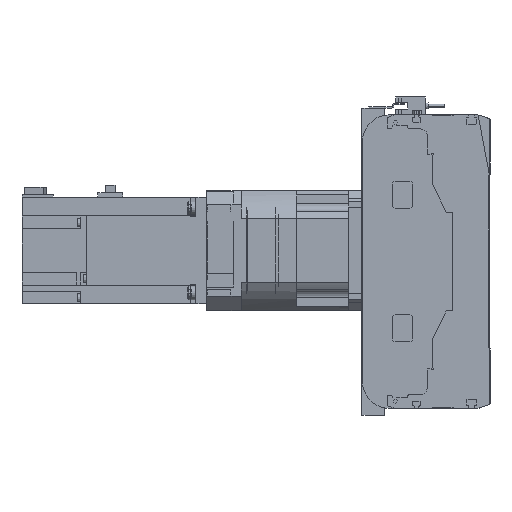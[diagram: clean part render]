
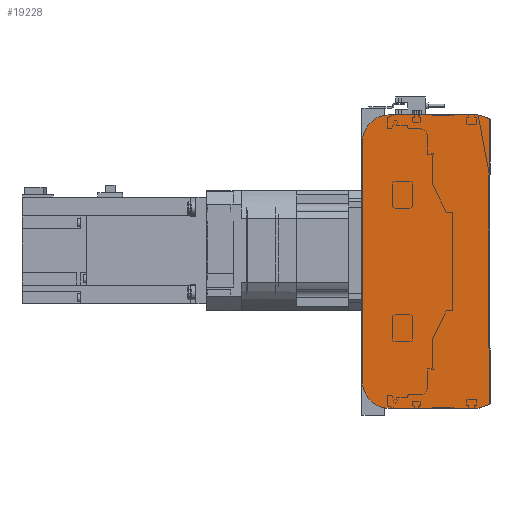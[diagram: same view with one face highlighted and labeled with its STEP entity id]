
A CAD part, left-side view. The second image highlights one B-rep face of the part: STEP entity #19228.
In plain terms, the highlighted planar face has unit normal (-1, 0, 0).
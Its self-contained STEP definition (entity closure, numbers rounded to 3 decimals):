
#1102=CIRCLE('',#20949,20.);
#1103=CIRCLE('',#20952,20.);
#4750=ORIENTED_EDGE('',*,*,#8328,.F.);
#4751=ORIENTED_EDGE('',*,*,#8370,.F.);
#4752=ORIENTED_EDGE('',*,*,#8368,.F.);
#4753=ORIENTED_EDGE('',*,*,#8366,.F.);
#4754=ORIENTED_EDGE('',*,*,#8355,.F.);
#4755=ORIENTED_EDGE('',*,*,#8346,.F.);
#4756=ORIENTED_EDGE('',*,*,#8342,.F.);
#4757=ORIENTED_EDGE('',*,*,#8339,.F.);
#8328=EDGE_CURVE('',#10461,#10462,#12187,.T.);
#8339=EDGE_CURVE('',#10462,#10469,#12198,.T.);
#8342=EDGE_CURVE('',#10469,#10471,#12201,.T.);
#8346=EDGE_CURVE('',#10471,#10472,#12205,.T.);
#8355=EDGE_CURVE('',#10472,#10478,#12214,.T.);
#8366=EDGE_CURVE('',#10478,#10485,#1102,.T.);
#8368=EDGE_CURVE('',#10485,#10486,#12226,.T.);
#8370=EDGE_CURVE('',#10486,#10461,#1103,.T.);
#10461=VERTEX_POINT('',#31855);
#10462=VERTEX_POINT('',#31857);
#10469=VERTEX_POINT('',#31876);
#10471=VERTEX_POINT('',#31882);
#10472=VERTEX_POINT('',#31888);
#10478=VERTEX_POINT('',#31904);
#10485=VERTEX_POINT('',#31923);
#10486=VERTEX_POINT('',#31927);
#12187=LINE('',#31856,#13776);
#12198=LINE('',#31875,#13787);
#12201=LINE('',#31881,#13790);
#12205=LINE('',#31887,#13794);
#12214=LINE('',#31903,#13803);
#12226=LINE('',#31926,#13815);
#13776=VECTOR('',#25348,1000.);
#13787=VECTOR('',#25361,1000.);
#13790=VECTOR('',#25366,1000.);
#13794=VECTOR('',#25372,1000.);
#13803=VECTOR('',#25383,1000.);
#13815=VECTOR('',#25401,1000.);
#15200=EDGE_LOOP('',(#4750,#4751,#4752,#4753,#4754,#4755,#4756,#4757));
#17038=FACE_BOUND('',#15200,.T.);
#18315=PLANE('',#20953);
#19228=ADVANCED_FACE('',(#17038),#18315,.F.);
#20949=AXIS2_PLACEMENT_3D('',#31922,#25396,#25397);
#20952=AXIS2_PLACEMENT_3D('',#31930,#25405,#25406);
#20953=AXIS2_PLACEMENT_3D('',#31931,#25407,#25408);
#25348=DIRECTION('',(0.,-1.,0.));
#25361=DIRECTION('',(0.,-0.945,-0.328));
#25366=DIRECTION('',(0.,0.,-1.));
#25372=DIRECTION('',(0.,0.945,-0.328));
#25383=DIRECTION('',(0.,1.,0.));
#25396=DIRECTION('',(1.,0.,0.));
#25397=DIRECTION('',(0.,0.,-1.));
#25401=DIRECTION('',(0.,0.,1.));
#25405=DIRECTION('',(1.,0.,0.));
#25406=DIRECTION('',(0.,0.,-1.));
#25407=DIRECTION('',(1.,0.,0.));
#25408=DIRECTION('',(0.,0.,-1.));
#31855=CARTESIAN_POINT('',(0.,75.5,110.));
#31856=CARTESIAN_POINT('',(0.,75.5,110.));
#31857=CARTESIAN_POINT('',(0.,9.,110.));
#31875=CARTESIAN_POINT('',(0.,9.,110.));
#31876=CARTESIAN_POINT('',(0.,0.5,107.05));
#31881=CARTESIAN_POINT('',(0.,0.5,107.05));
#31882=CARTESIAN_POINT('',(0.,0.5,-107.05));
#31887=CARTESIAN_POINT('',(0.,0.5,-107.05));
#31888=CARTESIAN_POINT('',(0.,9.,-110.));
#31903=CARTESIAN_POINT('',(0.,9.,-110.));
#31904=CARTESIAN_POINT('',(0.,75.5,-110.));
#31922=CARTESIAN_POINT('',(0.,75.5,-90.));
#31923=CARTESIAN_POINT('',(0.,95.5,-90.));
#31926=CARTESIAN_POINT('',(0.,95.5,-90.));
#31927=CARTESIAN_POINT('',(0.,95.5,90.));
#31930=CARTESIAN_POINT('',(0.,75.5,90.));
#31931=CARTESIAN_POINT('',(0.,75.5,-90.));
